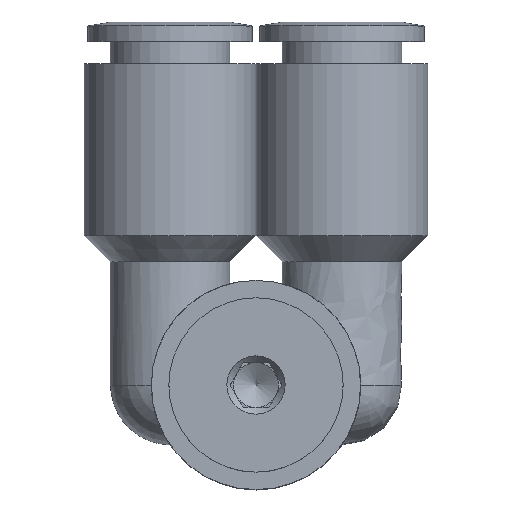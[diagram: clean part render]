
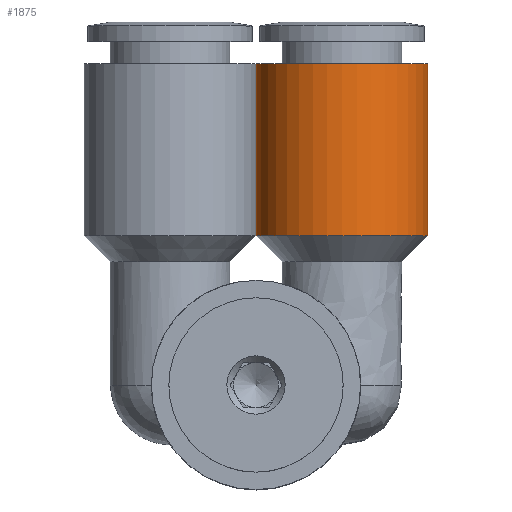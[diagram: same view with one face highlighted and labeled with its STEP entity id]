
A CAD part, top view. The second image highlights one B-rep face of the part: STEP entity #1875.
In plain terms, the highlighted free-form (B-spline) face has degree [1, 2] with [2, 9] control points.
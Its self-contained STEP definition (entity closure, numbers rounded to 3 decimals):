
#1810=CARTESIAN_POINT('',(0.,10.,0.0));
#1811=VERTEX_POINT('',#1810);
#1812=CARTESIAN_POINT('',(5.75,10.,0.0));
#1813=DIRECTION('',(0.0,-1.0,0.0));
#1814=DIRECTION('',(1.0,0.0,0.0));
#1815=AXIS2_PLACEMENT_3D('',#1812,#1813,#1814);
#1816=CIRCLE('',#1815,5.75);
#1817=EDGE_CURVE('',#1811,#1811,#1816,.T.);
#1825=CARTESIAN_POINT('',(0.,10.,0.));
#1826=CARTESIAN_POINT('',(0.,21.5,0.));
#1827=CARTESIAN_POINT('',(0.,10.,-5.75));
#1828=CARTESIAN_POINT('',(0.,21.5,-5.75));
#1829=CARTESIAN_POINT('',(5.75,10.0,-5.75));
#1830=CARTESIAN_POINT('',(5.75,21.5,-5.75));
#1831=CARTESIAN_POINT('',(11.5,10.,-5.75));
#1832=CARTESIAN_POINT('',(11.5,21.5,-5.75));
#1833=CARTESIAN_POINT('',(11.5,10.,0.));
#1834=CARTESIAN_POINT('',(11.5,21.5,0.));
#1835=CARTESIAN_POINT('',(11.5,10.,5.75));
#1836=CARTESIAN_POINT('',(11.5,21.5,5.75));
#1837=CARTESIAN_POINT('',(5.75,10.0,5.75));
#1838=CARTESIAN_POINT('',(5.75,21.5,5.75));
#1839=CARTESIAN_POINT('',(0.,10.,5.75));
#1840=CARTESIAN_POINT('',(0.,21.5,5.75));
#1841=CARTESIAN_POINT('',(0.,10.,0.));
#1842=CARTESIAN_POINT('',(0.,21.5,0.));
#1850=(BOUNDED_SURFACE()B_SPLINE_SURFACE(1,2,((#1825,#1827,#1829,#1831,#1833,#1835,#1837,#1839,#1841),(#1826,#1828,#1830,#1832,#1834,#1836,#1838,#1840,#1842)),.UNSPECIFIED.,.F.,.T.,.U.)B_SPLINE_SURFACE_WITH_KNOTS((2,2),(3,2,2,2,3),(-1.,1.),(0.0,9.032,18.064,27.096,36.128),.UNSPECIFIED.)GEOMETRIC_REPRESENTATION_ITEM()RATIONAL_B_SPLINE_SURFACE(((1.0,0.707,1.0,0.707,1.0,0.707,1.0,0.707,1.0),(1.0,0.707,1.0,0.707,1.0,0.707,1.0,0.707,1.0)))REPRESENTATION_ITEM('')SURFACE());
#1851=CARTESIAN_POINT('',(0.0,21.5,0.0));
#1852=VERTEX_POINT('',#1851);
#1853=CARTESIAN_POINT('',(5.75,21.5,0.0));
#1854=DIRECTION('',(0.0,-1.0,0.0));
#1855=DIRECTION('',(1.0,0.0,0.0));
#1856=AXIS2_PLACEMENT_3D('',#1853,#1854,#1855);
#1857=CIRCLE('',#1856,5.75);
#1858=EDGE_CURVE('',#1852,#1852,#1857,.T.);
#1859=ORIENTED_EDGE('',*,*,#1858,.T.);
#1860=CARTESIAN_POINT('',(0.0,21.5,0.0));
#1861=DIRECTION('',(0.0,-1.0,0.0));
#1862=VECTOR('',#1861,11.5);
#1863=LINE('',#1860,#1862);
#1864=EDGE_CURVE('',#1852,#1811,#1863,.T.);
#1865=ORIENTED_EDGE('',*,*,#1864,.T.);
#1866=ORIENTED_EDGE('',*,*,#1817,.F.);
#1867=CARTESIAN_POINT('',(0.0,21.5,0.0));
#1868=DIRECTION('',(0.0,-1.0,0.0));
#1869=VECTOR('',#1868,11.5);
#1870=LINE('',#1867,#1869);
#1871=EDGE_CURVE('',#1852,#1811,#1870,.T.);
#1872=ORIENTED_EDGE('',*,*,#1871,.F.);
#1873=EDGE_LOOP('',(#1859,#1865,#1866,#1872));
#1874=FACE_OUTER_BOUND('',#1873,.T.);
#1875=ADVANCED_FACE('',(#1874),#1850,.T.);
